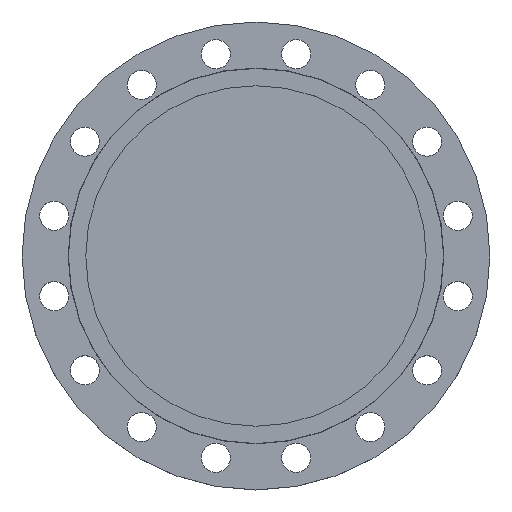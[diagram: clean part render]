
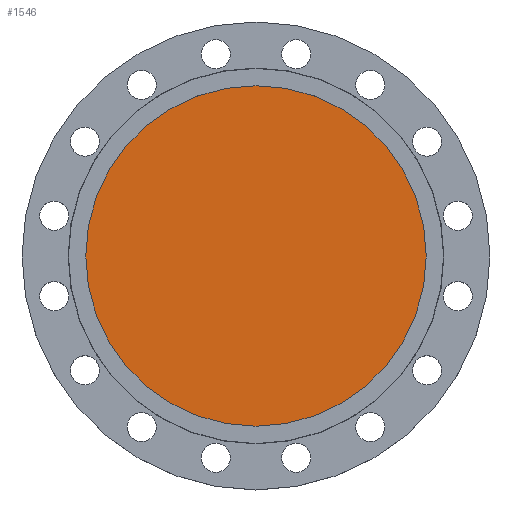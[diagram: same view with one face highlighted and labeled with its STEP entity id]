
A CAD part, top view. The second image highlights one B-rep face of the part: STEP entity #1546.
In plain terms, the highlighted planar face has unit normal (0, 0, 1).
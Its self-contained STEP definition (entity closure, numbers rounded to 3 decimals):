
#154 = CIRCLE ( 'NONE', #845, 211. ) ;
#390 = AXIS2_PLACEMENT_3D ( 'NONE', #785, #779, #880 ) ;
#445 = CIRCLE ( 'NONE', #861, 211. ) ;
#484 = CARTESIAN_POINT ( 'NONE',  ( -211., 0., -5. ) ) ;
#525 = DIRECTION ( 'NONE',  ( -1., 0., 0. ) ) ;
#526 = DIRECTION ( 'NONE',  ( 0., 0., -1. ) ) ;
#527 = CARTESIAN_POINT ( 'NONE',  ( 0., 0., -5. ) ) ;
#766 = CARTESIAN_POINT ( 'NONE',  ( 211., 0., -5. ) ) ;
#779 = DIRECTION ( 'NONE',  ( 0., 0., 1. ) ) ;
#785 = CARTESIAN_POINT ( 'NONE',  ( 211., 0., -5. ) ) ;
#791 = PLANE ( 'NONE',  #390 ) ;
#807 = EDGE_CURVE ( 'NONE', #1587, #921, #445, .T. ) ;
#845 = AXIS2_PLACEMENT_3D ( 'NONE', #1028, #1007, #1011 ) ;
#861 = AXIS2_PLACEMENT_3D ( 'NONE', #527, #526, #525 ) ;
#880 = DIRECTION ( 'NONE',  ( 1., 0., 0. ) ) ;
#891 = FACE_OUTER_BOUND ( 'NONE', #1456, .T. ) ;
#921 = VERTEX_POINT ( 'NONE', #484 ) ;
#1007 = DIRECTION ( 'NONE',  ( 0., 0., -1. ) ) ;
#1011 = DIRECTION ( 'NONE',  ( -1., 0., 0. ) ) ;
#1028 = CARTESIAN_POINT ( 'NONE',  ( 0., 0., -5. ) ) ;
#1414 = ORIENTED_EDGE ( 'NONE', *, *, #1529, .F. ) ;
#1415 = ORIENTED_EDGE ( 'NONE', *, *, #807, .F. ) ;
#1456 = EDGE_LOOP ( 'NONE', ( #1414, #1415 ) ) ;
#1529 = EDGE_CURVE ( 'NONE', #921, #1587, #154, .T. ) ;
#1546 = ADVANCED_FACE ( 'NONE', ( #891 ), #791, .T. ) ;
#1587 = VERTEX_POINT ( 'NONE', #766 ) ;
